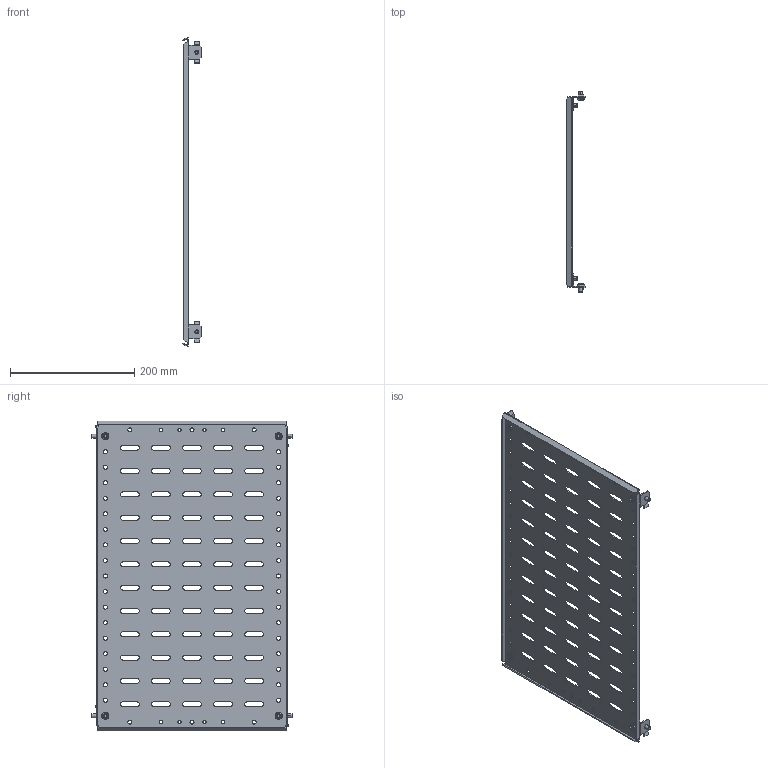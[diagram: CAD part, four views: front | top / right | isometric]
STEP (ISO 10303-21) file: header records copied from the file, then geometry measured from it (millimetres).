
FILE_DESCRIPTION (( 'STEP AP214' ), '1' );
FILE_NAME ('FO-00-SWF-050-040 Ïåðåãîðîäêà ñåêöèîíèðîâàíèÿ çàäíÿÿ 500õ400 ìì.STEP', '2025-08-12T08:35:37', ( '' ), ( '' ), 'SwSTEP 2.0', 'SolidWorks 2023', '' );
FILE_SCHEMA (( 'AUTOMOTIVE_DESIGN' ));
Length unit declared in the file: millimetre
Products named in the file (1): FO-00-SWF-050-040 Перегородка секционирования задняя 500х400 мм
Bounding box: 30.52 x 324 x 497.66 mm (x, y, z)
Volume: 234869.2 mm3; surface area: 315096.6 mm2
Topology: 1 solids, 5 shells, 800 faces, 2242 edges, 1472 vertices
Faces by surface type: cylinder 452, plane 292, cone 24, torus 24, sphere 8
Entity records: 26617 total; most frequent: CARTESIAN_POINT 4783, DIRECTION 4696, ORIENTED_EDGE 4484, EDGE_CURVE 2242, AXIS2_PLACEMENT_3D 1721, VERTEX_POINT 1472, VECTOR 1254, LINE 1254
